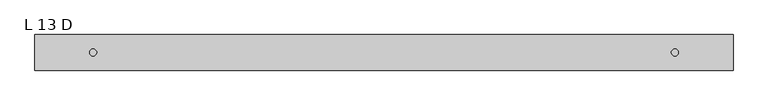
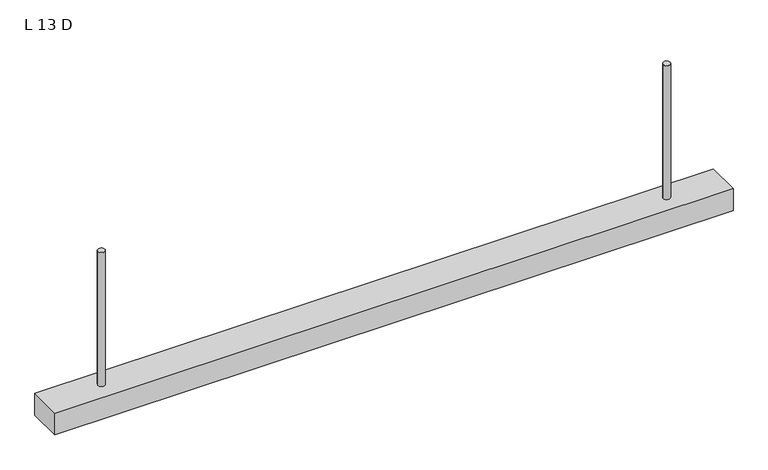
"""IFC4 building model written with IfcOpenShell, lengths in millimetres: light fixture geometry, ZYR_06.02.05 LLuminària Suspesa : L 13 D."""

from ifc_helpers import new_model, si_unit, point, frame, frame_2d, origin, origin_with_axes, place, context, project, spatial, polyline, circle_curve, trimmed, segment, composite_curve, outline, extrude, source, transform, mapped, element, save


def l_13_d_2080da92(model_context):
    return source(origin(), model_context, "Body", "SweptSolid", [
        extrude(outline(polyline([(980.0, 50.0), (980.0, -50.0), (-980.0, -50.0), (-980.0, 50.0), (980.0, 50.0)])), origin_with_axes(), (0.0, 0.0, 1.0), 67.0),
        extrude(outline(composite_curve([segment(trimmed(circle_curve(frame_2d((-816.6666667, 0.0)), 10.0), [point((-826.6666667, 0.0))], [point((-806.6666667, 0.0))], False, "CARTESIAN"), True, "CONTINUOUS"), segment(trimmed(circle_curve(frame_2d((-816.6666667, 0.0)), 10.0), [point((-806.6666667, 0.0))], [point((-826.6666667, 0.0))], False, "CARTESIAN"), True, "CONTINUOUS")], self_intersect=False)), frame((0.0, 0.0, 67.0), z_axis=(0.0, 0.0, 1.0), x_axis=(1.0, 0.0, 0.0)), (0.0, 0.0, 1.0), 410.0),
        extrude(outline(composite_curve([segment(trimmed(circle_curve(frame_2d((816.6666667, 0.0)), 10.0), [point((806.6666667, 0.0))], [point((826.6666667, 0.0))], False, "CARTESIAN"), True, "CONTINUOUS"), segment(trimmed(circle_curve(frame_2d((816.6666667, 0.0)), 10.0), [point((826.6666667, 0.0))], [point((806.6666667, 0.0))], False, "CARTESIAN"), True, "CONTINUOUS")], self_intersect=False)), frame((0.0, 0.0, 67.0), z_axis=(0.0, 0.0, 1.0), x_axis=(1.0, 0.0, 0.0)), (0.0, 0.0, 1.0), 410.0),
    ])


if __name__ == "__main__":
    model = new_model("IFC4")
    model_context = context("Model", 3, world=origin())
    ifc_project = project(units=[si_unit("LENGTHUNIT", "METRE", prefix="MILLI")], contexts=[model_context])
    site = spatial("IfcSite", under=ifc_project)
    building = spatial("IfcBuilding", under=site)
    placement = place(None, origin())
    l_13_d_shape = l_13_d_2080da92(model_context)
    element("IfcLightFixture", 1, ObjectType="ZYR_06.02.05 LLuminària Suspesa : L 13 D", at=placement, inside=building, context=model_context, shape_type="MappedRepresentation", body=[
        mapped(l_13_d_shape, transform((0.0, 0.0, 0.0), x_axis=(1.0, 0.0, 0.0), y_axis=(0.0, 1.0, 0.0), z_axis=(0.0, 0.0, 1.0))),
    ])
    save(model, "model.ifc")
